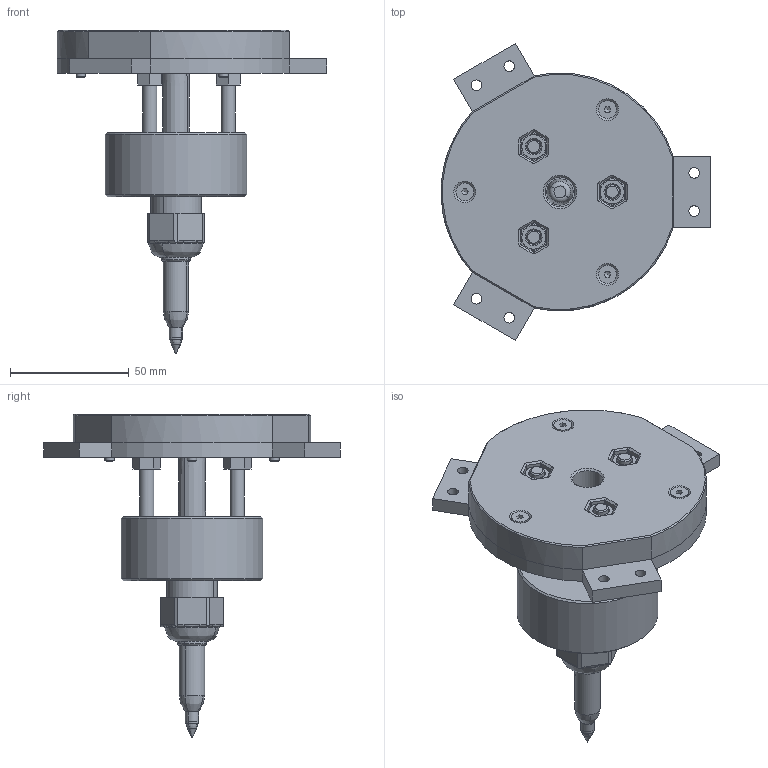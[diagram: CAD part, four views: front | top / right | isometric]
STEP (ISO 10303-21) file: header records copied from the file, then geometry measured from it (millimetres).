
FILE_DESCRIPTION( ('This file contains a STEP AP42 implementation' ,'as created by ZW3D STEP Interface translator.') ,'2;1' );
FILE_NAME( 'Base_Move_With_Gripper v2.stp' ,'23 720.152949', (''), ('ZWCAD Software Co.'), 'Version 1.0', 'ZW3D to STEP translator', '' );
FILE_SCHEMA(('AP242_MANAGED_MODEL_BASED_3D_ENGINEERING_MIM_LF { 1 0 10303 442 1 1 4 }'));
Length unit declared in the file: millimetre
Products named in the file (10): 0; Base_Move_With_Gripper v2; Base_Movil_Base; Gripper Base Superior v2; Gripper Base Inferior v2; ANSIB18241MS1_NUT_M6_T5.2; ANSIB1831MJ_HSHCS_M6L50; Marker body; Hexagon socket Csunk head screws ISO10642_M4x20-8.8; PE_PG13.5
Assembly tree (17 placements, depth 2):
  0
  Base_Move_With_Gripper v2
    Base_Movil_Base
    Gripper Base Superior v2
    Gripper Base Inferior v2
    ANSIB18241MS1_NUT_M6_T5.2  x6
    ANSIB1831MJ_HSHCS_M6L50  x3
    Marker body
    Hexagon socket Csunk head screws ISO10642_M4x20-8.8  x3
    PE_PG13.5
Bounding box: 113.39 x 124.9 x 136 mm (x, y, z)
Volume: 231316.5 mm3; surface area: 70142.1 mm2
Topology: 19 solids, 19 shells, 576 faces, 1386 edges, 938 vertices
Faces by surface type: plane 247, cone 138, cylinder 116, bspline 64, torus 9, sphere 2
Full cylindrical faces by diameter (mm): 3.3 x3, 4 x6, 4.5 x9, 6 x9, 6.6 x3, 7.53 x3, 10 x3, 11 x3, 12.5 x1, 21 x1, 59.5 x2, 59.9 x1
Entity records: 16404 total; most frequent: CARTESIAN_POINT 6141, DIRECTION 1953, ORIENTED_EDGE 1910, EDGE_CURVE 955, AXIS2_PLACEMENT_3D 701, VERTEX_POINT 598, VECTOR 551, LINE 551
